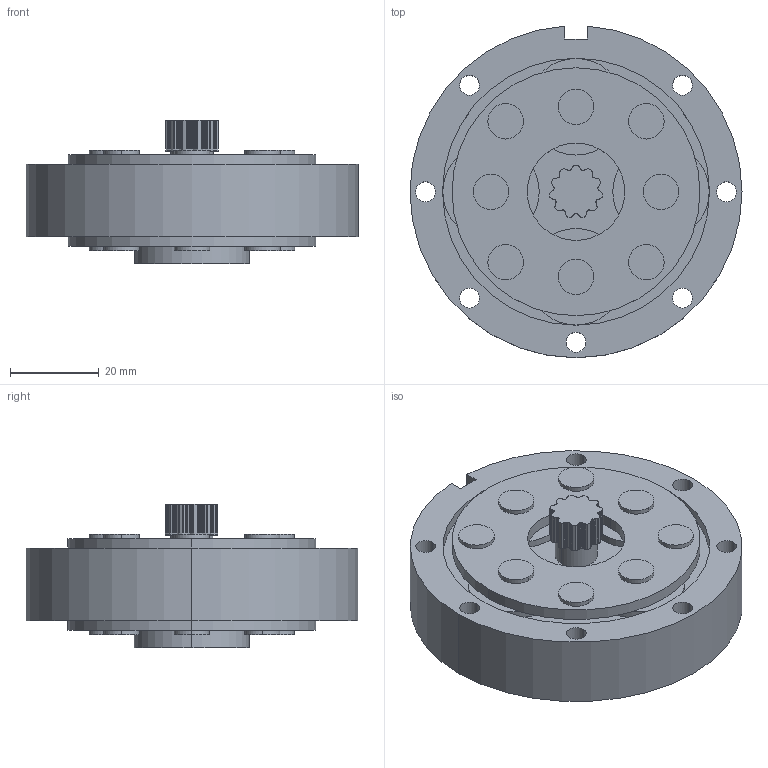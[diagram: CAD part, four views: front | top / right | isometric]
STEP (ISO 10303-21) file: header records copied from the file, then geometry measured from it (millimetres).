
FILE_DESCRIPTION (( 'STEP AP203' ), '1' );
FILE_NAME ('LGU75-4MLG12.step', '2021-07-23T02:28:26', ( '' ), ( '' ), 'SwSTEP 2.0', 'SolidWorks 2021', '' );
FILE_SCHEMA (( 'CONFIG_CONTROL_DESIGN' ));
Length unit declared in the file: millimetre
Products named in the file (1): LGU75-4MLG12
Bounding box: 75 x 74.92 x 32.5 mm (x, y, z)
Volume: 75272.3 mm3; surface area: 26900.4 mm2
Topology: 1 solids, 1 shells, 539 faces, 1512 edges, 1008 vertices
Faces by surface type: cylinder 501, plane 38
Entity records: 18125 total; most frequent: DIRECTION 3594, CARTESIAN_POINT 3060, ORIENTED_EDGE 3024, AXIS2_PLACEMENT_3D 1542, EDGE_CURVE 1512, VERTEX_POINT 1008, CIRCLE 1002, EDGE_LOOP 602
